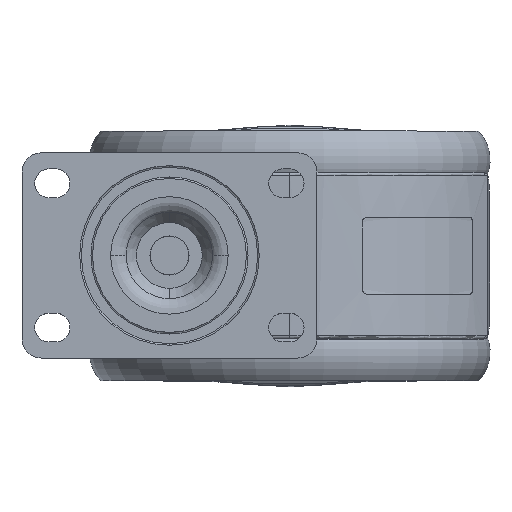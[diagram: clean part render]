
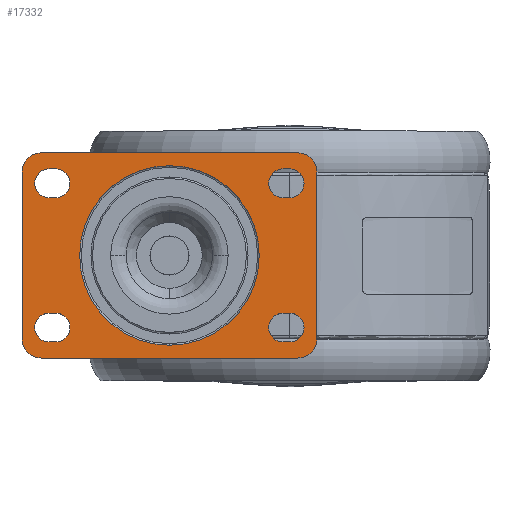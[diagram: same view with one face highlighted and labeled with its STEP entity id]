
A CAD part, top view. The second image highlights one B-rep face of the part: STEP entity #17332.
In plain terms, the highlighted planar face has unit normal (0, 0, 1).
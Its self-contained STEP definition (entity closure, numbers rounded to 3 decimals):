
#528=FACE_BOUND('',#25431,.T.);
#529=FACE_BOUND('',#25432,.T.);
#530=FACE_BOUND('',#25433,.T.);
#531=FACE_BOUND('',#25434,.T.);
#532=FACE_BOUND('',#25435,.T.);
#533=FACE_BOUND('',#25436,.T.);
#1984=PLANE('',#79091);
#8473=LINE('',#148044,#13230);
#8476=LINE('',#148052,#13233);
#8478=LINE('',#148058,#13235);
#8481=LINE('',#148066,#13238);
#8483=LINE('',#148072,#13240);
#8486=LINE('',#148080,#13243);
#8488=LINE('',#148086,#13245);
#8491=LINE('',#148094,#13248);
#8495=LINE('',#148135,#13252);
#8499=LINE('',#148145,#13256);
#8502=LINE('',#148153,#13259);
#8504=LINE('',#148159,#13261);
#13230=VECTOR('',#95405,1.);
#13233=VECTOR('',#95414,1.);
#13235=VECTOR('',#95422,1.);
#13238=VECTOR('',#95431,1.);
#13240=VECTOR('',#95439,1.);
#13243=VECTOR('',#95448,1.);
#13245=VECTOR('',#95456,1.);
#13248=VECTOR('',#95465,1.);
#13252=VECTOR('',#95481,1.);
#13256=VECTOR('',#95491,1.);
#13259=VECTOR('',#95500,1.);
#13261=VECTOR('',#95508,1.);
#17332=ADVANCED_FACE('',(#528,#529,#530,#531,#532,#533),#1984,.F.);
#25431=EDGE_LOOP('',(#48665,#48666,#48667,#48668,#48669));
#25432=EDGE_LOOP('',(#48670,#48671,#48672,#48673,#48674));
#25433=EDGE_LOOP('',(#48675,#48676,#48677,#48678,#48679));
#25434=EDGE_LOOP('',(#48680,#48681,#48682,#48683,#48684));
#25435=EDGE_LOOP('',(#48685,#48686));
#25436=EDGE_LOOP('',(#48687,#48688,#48689,#48690,#48691,#48692,#48693,#48694));
#28539=CIRCLE('',#78983,4.5);
#28541=CIRCLE('',#78986,4.5);
#28543=CIRCLE('',#78989,4.5);
#28545=CIRCLE('',#78992,4.5);
#28547=CIRCLE('',#78995,28.);
#28594=CIRCLE('',#79054,4.5);
#28595=CIRCLE('',#79057,4.5);
#28596=CIRCLE('',#79060,4.5);
#28597=CIRCLE('',#79063,4.5);
#28598=CIRCLE('',#79066,4.5);
#28599=CIRCLE('',#79069,4.5);
#28600=CIRCLE('',#79072,4.5);
#28601=CIRCLE('',#79075,4.5);
#28603=CIRCLE('',#79078,6.);
#28604=CIRCLE('',#79081,6.);
#28605=CIRCLE('',#79084,6.);
#28606=CIRCLE('',#79087,6.);
#28607=CIRCLE('',#79090,28.);
#48665=ORIENTED_EDGE('',*,*,#68643,.T.);
#48666=ORIENTED_EDGE('',*,*,#68555,.T.);
#48667=ORIENTED_EDGE('',*,*,#68644,.T.);
#48668=ORIENTED_EDGE('',*,*,#68646,.T.);
#48669=ORIENTED_EDGE('',*,*,#68640,.F.);
#48670=ORIENTED_EDGE('',*,*,#68650,.T.);
#48671=ORIENTED_EDGE('',*,*,#68559,.T.);
#48672=ORIENTED_EDGE('',*,*,#68651,.F.);
#48673=ORIENTED_EDGE('',*,*,#68653,.T.);
#48674=ORIENTED_EDGE('',*,*,#68647,.T.);
#48675=ORIENTED_EDGE('',*,*,#68656,.T.);
#48676=ORIENTED_EDGE('',*,*,#68658,.F.);
#48677=ORIENTED_EDGE('',*,*,#68660,.T.);
#48678=ORIENTED_EDGE('',*,*,#68563,.T.);
#48679=ORIENTED_EDGE('',*,*,#68654,.T.);
#48680=ORIENTED_EDGE('',*,*,#68663,.T.);
#48681=ORIENTED_EDGE('',*,*,#68665,.T.);
#48682=ORIENTED_EDGE('',*,*,#68667,.T.);
#48683=ORIENTED_EDGE('',*,*,#68567,.T.);
#48684=ORIENTED_EDGE('',*,*,#68661,.F.);
#48685=ORIENTED_EDGE('',*,*,#68571,.F.);
#48686=ORIENTED_EDGE('',*,*,#68685,.F.);
#48687=ORIENTED_EDGE('',*,*,#68677,.F.);
#48688=ORIENTED_EDGE('',*,*,#68679,.F.);
#48689=ORIENTED_EDGE('',*,*,#68681,.T.);
#48690=ORIENTED_EDGE('',*,*,#68682,.F.);
#48691=ORIENTED_EDGE('',*,*,#68684,.T.);
#48692=ORIENTED_EDGE('',*,*,#68670,.F.);
#48693=ORIENTED_EDGE('',*,*,#68672,.F.);
#48694=ORIENTED_EDGE('',*,*,#68674,.F.);
#57796=VERTEX_POINT('',#147871);
#57797=VERTEX_POINT('',#147872);
#57800=VERTEX_POINT('',#147880);
#57801=VERTEX_POINT('',#147881);
#57804=VERTEX_POINT('',#147889);
#57805=VERTEX_POINT('',#147890);
#57808=VERTEX_POINT('',#147898);
#57809=VERTEX_POINT('',#147899);
#57812=VERTEX_POINT('',#147907);
#57813=VERTEX_POINT('',#147908);
#57870=VERTEX_POINT('',#148045);
#57871=VERTEX_POINT('',#148046);
#57872=VERTEX_POINT('',#148053);
#57873=VERTEX_POINT('',#148059);
#57874=VERTEX_POINT('',#148060);
#57875=VERTEX_POINT('',#148067);
#57876=VERTEX_POINT('',#148073);
#57877=VERTEX_POINT('',#148077);
#57878=VERTEX_POINT('',#148081);
#57879=VERTEX_POINT('',#148087);
#57880=VERTEX_POINT('',#148091);
#57881=VERTEX_POINT('',#148095);
#57882=VERTEX_POINT('',#148130);
#57883=VERTEX_POINT('',#148132);
#57884=VERTEX_POINT('',#148136);
#57885=VERTEX_POINT('',#148140);
#57886=VERTEX_POINT('',#148144);
#57887=VERTEX_POINT('',#148148);
#57888=VERTEX_POINT('',#148152);
#57889=VERTEX_POINT('',#148156);
#68555=EDGE_CURVE('',#57796,#57797,#28539,.T.);
#68559=EDGE_CURVE('',#57800,#57801,#28541,.T.);
#68563=EDGE_CURVE('',#57804,#57805,#28543,.T.);
#68567=EDGE_CURVE('',#57808,#57809,#28545,.T.);
#68571=EDGE_CURVE('',#57812,#57813,#28547,.T.);
#68640=EDGE_CURVE('',#57870,#57871,#8473,.T.);
#68643=EDGE_CURVE('',#57870,#57796,#28594,.T.);
#68644=EDGE_CURVE('',#57797,#57872,#8476,.T.);
#68646=EDGE_CURVE('',#57872,#57871,#28595,.T.);
#68647=EDGE_CURVE('',#57873,#57874,#8478,.T.);
#68650=EDGE_CURVE('',#57874,#57800,#28596,.T.);
#68651=EDGE_CURVE('',#57875,#57801,#8481,.T.);
#68653=EDGE_CURVE('',#57875,#57873,#28597,.T.);
#68654=EDGE_CURVE('',#57805,#57876,#8483,.T.);
#68656=EDGE_CURVE('',#57876,#57877,#28598,.T.);
#68658=EDGE_CURVE('',#57878,#57877,#8486,.T.);
#68660=EDGE_CURVE('',#57878,#57804,#28599,.T.);
#68661=EDGE_CURVE('',#57879,#57809,#8488,.T.);
#68663=EDGE_CURVE('',#57879,#57880,#28600,.T.);
#68665=EDGE_CURVE('',#57880,#57881,#8491,.T.);
#68667=EDGE_CURVE('',#57881,#57808,#28601,.T.);
#68670=EDGE_CURVE('',#57882,#57883,#28603,.T.);
#68672=EDGE_CURVE('',#57884,#57882,#8495,.T.);
#68674=EDGE_CURVE('',#57885,#57884,#28604,.T.);
#68677=EDGE_CURVE('',#57886,#57885,#8499,.T.);
#68679=EDGE_CURVE('',#57887,#57886,#28605,.T.);
#68681=EDGE_CURVE('',#57887,#57888,#8502,.T.);
#68682=EDGE_CURVE('',#57889,#57888,#28606,.T.);
#68684=EDGE_CURVE('',#57889,#57883,#8504,.T.);
#68685=EDGE_CURVE('',#57813,#57812,#28607,.T.);
#78983=AXIS2_PLACEMENT_3D('',#147870,#95235,#95236);
#78986=AXIS2_PLACEMENT_3D('',#147879,#95243,#95244);
#78989=AXIS2_PLACEMENT_3D('',#147888,#95251,#95252);
#78992=AXIS2_PLACEMENT_3D('',#147897,#95259,#95260);
#78995=AXIS2_PLACEMENT_3D('',#147906,#95267,#95268);
#79054=AXIS2_PLACEMENT_3D('',#148050,#95410,#95411);
#79057=AXIS2_PLACEMENT_3D('',#148056,#95418,#95419);
#79060=AXIS2_PLACEMENT_3D('',#148064,#95427,#95428);
#79063=AXIS2_PLACEMENT_3D('',#148070,#95435,#95436);
#79066=AXIS2_PLACEMENT_3D('',#148076,#95443,#95444);
#79069=AXIS2_PLACEMENT_3D('',#148084,#95452,#95453);
#79072=AXIS2_PLACEMENT_3D('',#148090,#95460,#95461);
#79075=AXIS2_PLACEMENT_3D('',#148098,#95469,#95470);
#79078=AXIS2_PLACEMENT_3D('',#148131,#95476,#95477);
#79081=AXIS2_PLACEMENT_3D('',#148139,#95485,#95486);
#79084=AXIS2_PLACEMENT_3D('',#148149,#95495,#95496);
#79087=AXIS2_PLACEMENT_3D('',#148155,#95503,#95504);
#79090=AXIS2_PLACEMENT_3D('',#148161,#95511,#95512);
#79091=AXIS2_PLACEMENT_3D('',#148162,#95513,#95514);
#95235=DIRECTION('',(0.,0.,-1.));
#95236=DIRECTION('',(-1.,0.,0.));
#95243=DIRECTION('',(0.,0.,-1.));
#95244=DIRECTION('',(-1.,0.,0.));
#95251=DIRECTION('',(0.,0.,-1.));
#95252=DIRECTION('',(-1.,0.,0.));
#95259=DIRECTION('',(0.,0.,-1.));
#95260=DIRECTION('',(-1.,0.,0.));
#95267=DIRECTION('',(0.,0.,1.));
#95268=DIRECTION('',(-1.,0.,0.));
#95405=DIRECTION('',(1.,0.,0.));
#95410=DIRECTION('',(0.,0.,-1.));
#95411=DIRECTION('',(-1.,0.,0.));
#95414=DIRECTION('',(1.,0.,0.));
#95418=DIRECTION('',(0.,0.,-1.));
#95419=DIRECTION('',(-1.,0.,0.));
#95422=DIRECTION('',(-1.,0.,0.));
#95427=DIRECTION('',(0.,0.,-1.));
#95428=DIRECTION('',(-1.,0.,0.));
#95431=DIRECTION('',(-1.,0.,0.));
#95435=DIRECTION('',(0.,0.,-1.));
#95436=DIRECTION('',(-1.,0.,0.));
#95439=DIRECTION('',(1.,0.,0.));
#95443=DIRECTION('',(0.,0.,-1.));
#95444=DIRECTION('',(-1.,0.,0.));
#95448=DIRECTION('',(1.,0.,0.));
#95452=DIRECTION('',(0.,0.,-1.));
#95453=DIRECTION('',(-1.,0.,0.));
#95456=DIRECTION('',(-1.,0.,0.));
#95460=DIRECTION('',(0.,0.,-1.));
#95461=DIRECTION('',(-1.,0.,0.));
#95465=DIRECTION('',(-1.,0.,0.));
#95469=DIRECTION('',(0.,0.,-1.));
#95470=DIRECTION('',(-1.,0.,0.));
#95476=DIRECTION('',(0.,0.,-1.));
#95477=DIRECTION('',(-1.,0.,0.));
#95481=DIRECTION('',(0.,1.,0.));
#95485=DIRECTION('',(0.,0.,-1.));
#95486=DIRECTION('',(-1.,0.,0.));
#95491=DIRECTION('',(-1.,0.,0.));
#95495=DIRECTION('',(0.,0.,-1.));
#95496=DIRECTION('',(-1.,0.,0.));
#95500=DIRECTION('',(0.,1.,0.));
#95503=DIRECTION('',(0.,0.,-1.));
#95504=DIRECTION('',(-1.,0.,0.));
#95508=DIRECTION('',(-1.,0.,0.));
#95511=DIRECTION('',(0.,0.,1.));
#95512=DIRECTION('',(-1.,0.,0.));
#95513=DIRECTION('',(0.,0.,-1.));
#95514=DIRECTION('',(1.,0.,0.));
#147870=CARTESIAN_POINT('',(35.458,-22.478,0.));
#147871=CARTESIAN_POINT('',(30.958,-22.478,0.));
#147872=CARTESIAN_POINT('',(35.458,-17.978,0.));
#147879=CARTESIAN_POINT('',(35.458,22.522,0.));
#147880=CARTESIAN_POINT('',(30.958,22.522,0.));
#147881=CARTESIAN_POINT('',(35.458,27.022,0.));
#147888=CARTESIAN_POINT('',(-37.542,-22.478,0.));
#147889=CARTESIAN_POINT('',(-42.042,-22.478,0.));
#147890=CARTESIAN_POINT('',(-37.542,-17.978,0.));
#147897=CARTESIAN_POINT('',(-37.542,22.522,0.));
#147898=CARTESIAN_POINT('',(-42.042,22.522,0.));
#147899=CARTESIAN_POINT('',(-37.542,27.022,0.));
#147906=CARTESIAN_POINT('',(0.,0.,0.));
#147907=CARTESIAN_POINT('',(-28.,0.,0.));
#147908=CARTESIAN_POINT('',(28.,0.,0.));
#148044=CARTESIAN_POINT('',(37.958,-26.978,0.));
#148045=CARTESIAN_POINT('',(35.458,-26.978,0.));
#148046=CARTESIAN_POINT('',(37.458,-26.978,0.));
#148050=CARTESIAN_POINT('',(35.458,-22.478,0.));
#148052=CARTESIAN_POINT('',(37.958,-17.978,0.));
#148053=CARTESIAN_POINT('',(37.458,-17.978,0.));
#148056=CARTESIAN_POINT('',(37.458,-22.478,0.));
#148058=CARTESIAN_POINT('',(37.958,18.022,0.));
#148059=CARTESIAN_POINT('',(37.458,18.022,0.));
#148060=CARTESIAN_POINT('',(35.458,18.022,0.));
#148064=CARTESIAN_POINT('',(35.458,22.522,0.));
#148066=CARTESIAN_POINT('',(37.958,27.022,0.));
#148067=CARTESIAN_POINT('',(37.458,27.022,0.));
#148070=CARTESIAN_POINT('',(37.458,22.522,0.));
#148072=CARTESIAN_POINT('',(-38.042,-17.978,0.));
#148073=CARTESIAN_POINT('',(-35.542,-17.978,0.));
#148076=CARTESIAN_POINT('',(-35.542,-22.478,0.));
#148077=CARTESIAN_POINT('',(-35.542,-26.978,0.));
#148080=CARTESIAN_POINT('',(-38.042,-26.978,0.));
#148081=CARTESIAN_POINT('',(-37.542,-26.978,0.));
#148084=CARTESIAN_POINT('',(-37.542,-22.478,0.));
#148086=CARTESIAN_POINT('',(-38.042,27.022,0.));
#148087=CARTESIAN_POINT('',(-35.542,27.022,0.));
#148090=CARTESIAN_POINT('',(-35.542,22.522,0.));
#148091=CARTESIAN_POINT('',(-35.542,18.022,0.));
#148094=CARTESIAN_POINT('',(-38.042,18.022,0.));
#148095=CARTESIAN_POINT('',(-37.542,18.022,0.));
#148098=CARTESIAN_POINT('',(-37.542,22.522,0.));
#148130=CARTESIAN_POINT('',(-46.,26.,0.));
#148131=CARTESIAN_POINT('',(-40.,26.,0.));
#148132=CARTESIAN_POINT('',(-40.,32.,0.));
#148135=CARTESIAN_POINT('',(-46.,-28.,0.));
#148136=CARTESIAN_POINT('',(-46.,-26.,0.));
#148139=CARTESIAN_POINT('',(-40.,-26.,0.));
#148140=CARTESIAN_POINT('',(-40.,-32.,0.));
#148144=CARTESIAN_POINT('',(40.,-32.,0.));
#148145=CARTESIAN_POINT('',(-32.,-32.,0.));
#148148=CARTESIAN_POINT('',(46.,-26.,0.));
#148149=CARTESIAN_POINT('',(40.,-26.,0.));
#148152=CARTESIAN_POINT('',(46.,26.,0.));
#148153=CARTESIAN_POINT('',(46.,-28.,0.));
#148155=CARTESIAN_POINT('',(40.,26.,0.));
#148156=CARTESIAN_POINT('',(40.,32.,0.));
#148159=CARTESIAN_POINT('',(-32.,32.,0.));
#148161=CARTESIAN_POINT('',(0.,0.,0.));
#148162=CARTESIAN_POINT('',(-32.,-28.,0.));
